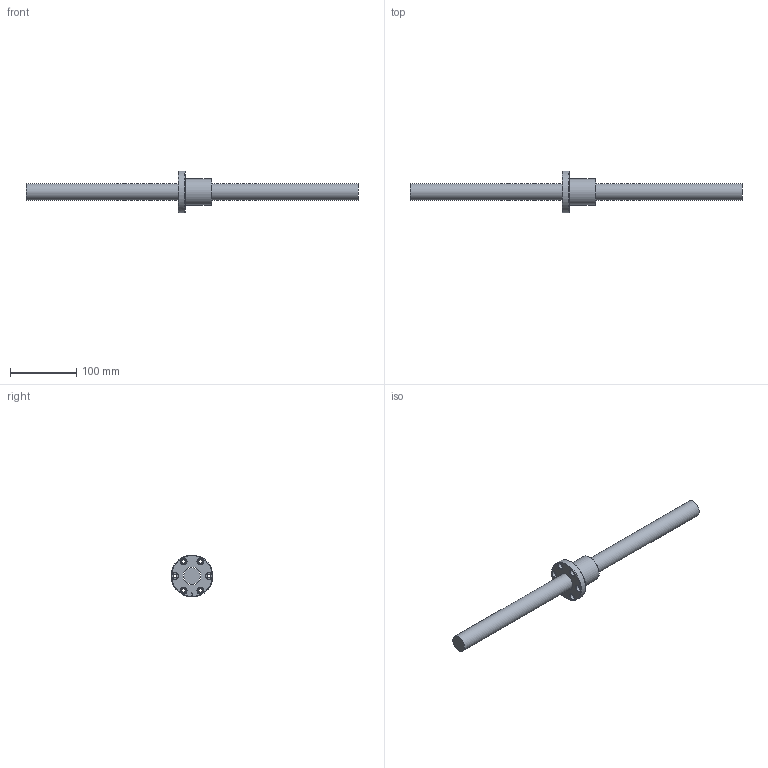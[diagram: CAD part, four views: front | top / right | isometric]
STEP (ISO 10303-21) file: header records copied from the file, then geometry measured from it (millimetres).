
FILE_DESCRIPTION (( 'STEP AP203' ), '1' );
FILE_NAME ('SFNI02505N-4.step', '2024-05-16T01:21:36', ( '' ), ( '' ), 'SwSTEP 2.0', 'SolidWorks 2022', '' );
FILE_SCHEMA (( 'CONFIG_CONTROL_DESIGN' ));
Length unit declared in the file: millimetre
Products named in the file (1): SFNI02505N-4
Bounding box: 500 x 63 x 63 mm (x, y, z)
Volume: 296822 mm3; surface area: 58205.3 mm2
Topology: 2 solids, 2 shells, 57 faces, 144 edges, 91 vertices
Faces by surface type: cylinder 24, cone 13, plane 12, bspline 5, torus 3
Full cylindrical faces by diameter (mm): 4 x1, 5.5 x6, 7 x6, 9.5 x6, 25 x1, 27.1 x1, 40 x1, 63 x1
Entity records: 3841 total; most frequent: CARTESIAN_POINT 2787, DIRECTION 204, ORIENTED_EDGE 152, AXIS2_PLACEMENT_3D 101, EDGE_LOOP 101, EDGE_CURVE 76, FACE_OUTER_BOUND 72, VERTEX_POINT 65
